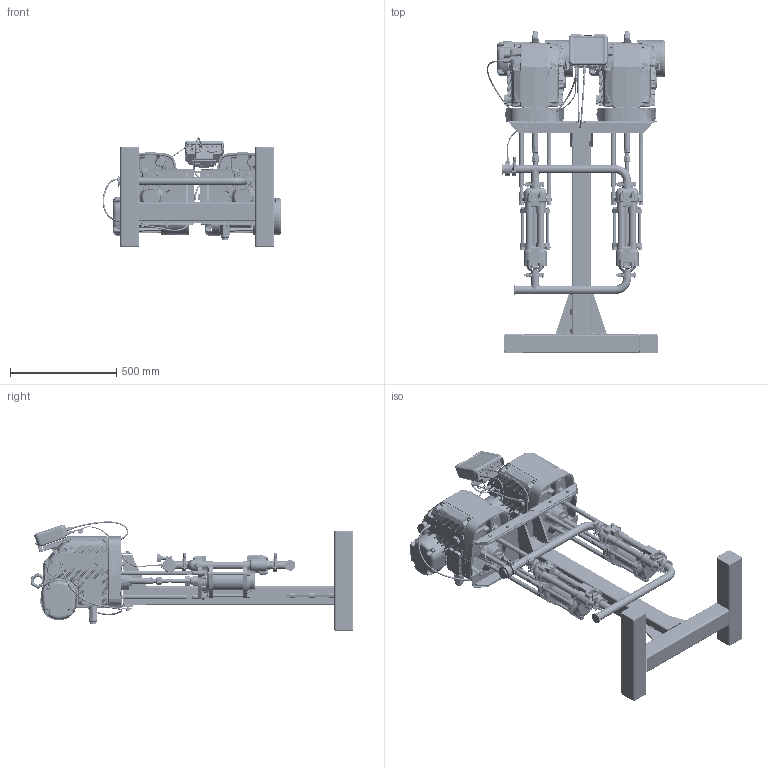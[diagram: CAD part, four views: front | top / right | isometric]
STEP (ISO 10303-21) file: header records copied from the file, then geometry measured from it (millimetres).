
FILE_DESCRIPTION((''),'2;1');
FILE_NAME('EC4961-EN-E_PRT','2020-01-01T12:01:57',('qusrh3'),(''),'CREO PARAMETRIC BY PTC INC, 2019030','CREO PARAMETRIC BY PTC INC, 2019030','');
FILE_SCHEMA(('CONFIG_CONTROL_DESIGN'));
Products named in the file (1): EC4961-EN-E_PRT
Bounding box: 838.84 x 1516.76 x 513.61 mm (x, y, z)
Surface area: 5895989.5 mm2 (no closed solid volume)
Topology: 0 solids, 760 shells, 11261 faces, 36387 edges, 24804 vertices
Faces by surface type: cylinder 3248, bspline 3133, plane 2902, cone 992, torus 738, sphere 180, extrusion 68
Entity records: 609223 total; most frequent: CARTESIAN_POINT 331211, ORIENTED_EDGE 58416, DIRECTION 49340, EDGE_CURVE 36334, VERTEX_POINT 24804, AXIS2_PLACEMENT_3D 19106, B_SPLINE_CURVE_WITH_KNOTS 14296, EDGE_LOOP 11261
